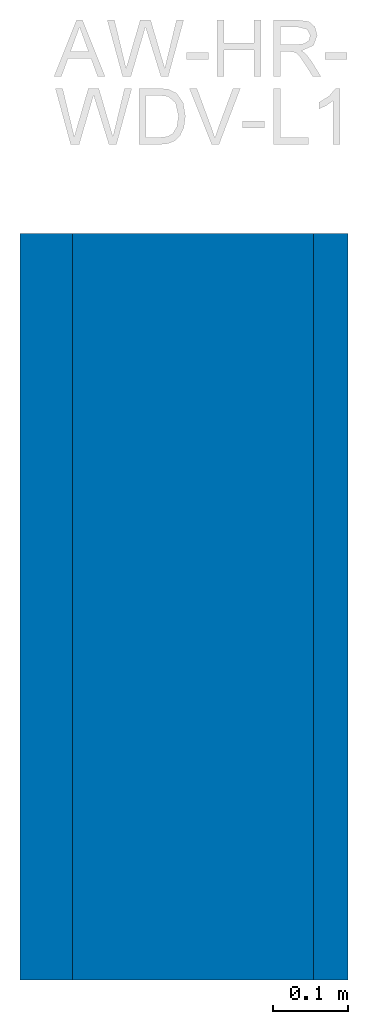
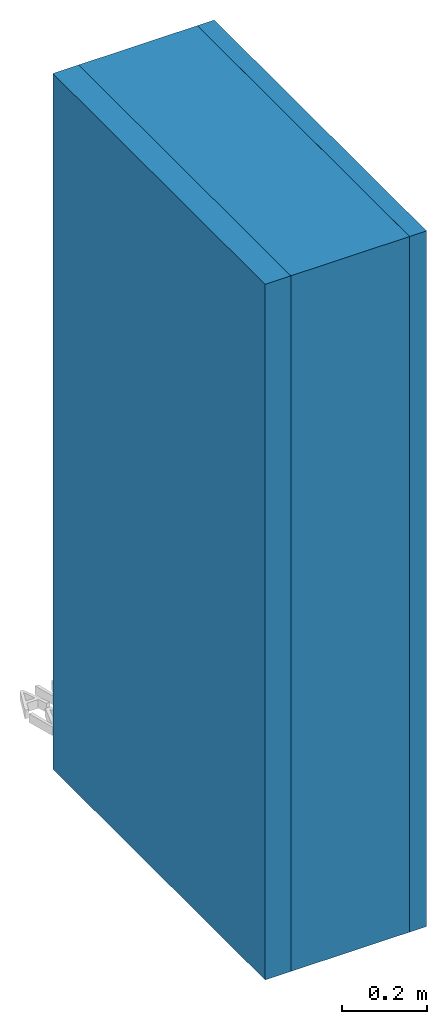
# Not in any storey, part 1 of 2: 3 walls, 1 element without a shape of its own.
"""IFC4 model written with IfcOpenShell, lengths in metres."""

from ifc_helpers import new_model, entity, si_unit, converted_unit, derived_unit, direction, frame, origin, place, context, subcontext, project, spatial, indexed_curve, outline, extrude, material, constituent, constituent_set, type_object, element, aggregate, save


model = new_model("IFC4")

# Units and contexts
model_context = context("Model", 3, precision=1e-05, world=origin(), true_north=direction((6.123031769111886e-17, 1.0)))
body_context = subcontext(model_context, "Body", "Model", "MODEL_VIEW")
ifc_project = project(units=[si_unit("LENGTHUNIT", "METRE"), si_unit("AREAUNIT", "SQUARE_METRE"), si_unit("VOLUMEUNIT", "CUBIC_METRE"), converted_unit("PLANEANGLEUNIT", "DEGREE", entity("IfcRatioMeasure", 0.017453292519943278), si_unit("PLANEANGLEUNIT", "RADIAN"), dimensions=[0, 0, 0, 0, 0, 0, 0]), si_unit("MASSUNIT", "GRAM", prefix="KILO"), derived_unit("MASSDENSITYUNIT", [(si_unit("MASSUNIT", "GRAM", prefix="KILO"), 1), (si_unit("LENGTHUNIT", "METRE"), -3)]), derived_unit("IONCONCENTRATIONUNIT", [(si_unit("MASSUNIT", "GRAM", prefix="KILO"), 1), (si_unit("LENGTHUNIT", "METRE"), -3)]), derived_unit("MOMENTOFINERTIAUNIT", [(si_unit("LENGTHUNIT", "METRE"), 4)]), si_unit("TIMEUNIT", "SECOND"), si_unit("FREQUENCYUNIT", "HERTZ"), si_unit("THERMODYNAMICTEMPERATUREUNIT", "DEGREE_CELSIUS"), derived_unit("THERMALTRANSMITTANCEUNIT", [(si_unit("MASSUNIT", "GRAM", prefix="KILO"), 1), (si_unit("THERMODYNAMICTEMPERATUREUNIT", "KELVIN"), -1), (si_unit("TIMEUNIT", "SECOND"), -3)]), derived_unit("THERMALCONDUCTANCEUNIT", [(si_unit("MASSUNIT", "GRAM", prefix="KILO"), 1), (si_unit("THERMODYNAMICTEMPERATUREUNIT", "KELVIN"), -1), (si_unit("TIMEUNIT", "SECOND"), -3), (si_unit("LENGTHUNIT", "METRE"), 1)]), derived_unit("VOLUMETRICFLOWRATEUNIT", [(si_unit("LENGTHUNIT", "METRE"), 3), (si_unit("TIMEUNIT", "SECOND"), -1)]), derived_unit("MASSFLOWRATEUNIT", [(si_unit("MASSUNIT", "GRAM", prefix="KILO"), 1), (si_unit("TIMEUNIT", "SECOND"), -1)]), derived_unit("ROTATIONALFREQUENCYUNIT", [(si_unit("TIMEUNIT", "SECOND"), -1)]), si_unit("ELECTRICCURRENTUNIT", "AMPERE"), si_unit("ELECTRICVOLTAGEUNIT", "VOLT"), si_unit("POWERUNIT", "WATT"), si_unit("FORCEUNIT", "NEWTON", prefix="KILO"), si_unit("ILLUMINANCEUNIT", "LUX"), si_unit("LUMINOUSFLUXUNIT", "LUMEN"), si_unit("LUMINOUSINTENSITYUNIT", "CANDELA"), derived_unit("USERDEFINED", [(si_unit("MASSUNIT", "GRAM", prefix="KILO"), -1), (si_unit("LENGTHUNIT", "METRE"), -2), (si_unit("TIMEUNIT", "SECOND"), 3), (si_unit("LUMINOUSFLUXUNIT", "LUMEN"), 1)]), derived_unit("USERDEFINED", [(si_unit("MASSUNIT", "GRAM", prefix="KILO"), 1), (si_unit("TIMEUNIT", "SECOND"), -3), (si_unit("LENGTHUNIT", "METRE"), 3), (si_unit("ELECTRICCURRENTUNIT", "AMPERE"), -2)]), derived_unit("SOUNDPOWERUNIT", [(si_unit("MASSUNIT", "GRAM", prefix="KILO"), 1), (si_unit("TIMEUNIT", "SECOND"), -3), (si_unit("LENGTHUNIT", "METRE"), 2)]), derived_unit("SOUNDPRESSUREUNIT", [(si_unit("MASSUNIT", "GRAM", prefix="KILO"), 1), (si_unit("LENGTHUNIT", "METRE"), -1), (si_unit("TIMEUNIT", "SECOND"), -2)]), derived_unit("LINEARVELOCITYUNIT", [(si_unit("LENGTHUNIT", "METRE"), 1), (si_unit("TIMEUNIT", "SECOND"), -1)]), si_unit("PRESSUREUNIT", "PASCAL"), derived_unit("USERDEFINED", [(si_unit("MASSUNIT", "GRAM", prefix="KILO"), 1), (si_unit("LENGTHUNIT", "METRE"), -2), (si_unit("TIMEUNIT", "SECOND"), -2)]), derived_unit("LINEARFORCEUNIT", [(si_unit("MASSUNIT", "GRAM", prefix="KILO"), 1), (si_unit("TIMEUNIT", "SECOND"), -2)]), derived_unit("PLANARFORCEUNIT", [(si_unit("MASSUNIT", "GRAM", prefix="KILO"), 1), (si_unit("LENGTHUNIT", "METRE"), -1), (si_unit("TIMEUNIT", "SECOND"), -2)]), derived_unit("SPECIFICHEATCAPACITYUNIT", [(si_unit("THERMODYNAMICTEMPERATUREUNIT", "KELVIN"), -1), (si_unit("LENGTHUNIT", "METRE"), 2), (si_unit("TIMEUNIT", "SECOND"), -2)]), derived_unit("HEATINGVALUEUNIT", [(si_unit("LENGTHUNIT", "METRE"), 2), (si_unit("TIMEUNIT", "SECOND"), -2)]), derived_unit("VAPORPERMEABILITYUNIT", [(si_unit("LENGTHUNIT", "METRE"), -1), (si_unit("TIMEUNIT", "SECOND"), 1)]), derived_unit("DYNAMICVISCOSITYUNIT", [(si_unit("MASSUNIT", "GRAM", prefix="KILO"), 1), (si_unit("TIMEUNIT", "SECOND"), -1), (si_unit("LENGTHUNIT", "METRE"), -1)]), derived_unit("THERMALEXPANSIONCOEFFICIENTUNIT", [(si_unit("THERMODYNAMICTEMPERATUREUNIT", "KELVIN"), -1)]), derived_unit("MODULUSOFELASTICITYUNIT", [(si_unit("MASSUNIT", "GRAM", prefix="KILO"), 1), (si_unit("LENGTHUNIT", "METRE"), -1), (si_unit("TIMEUNIT", "SECOND"), -2)]), derived_unit("ISOTHERMALMOISTURECAPACITYUNIT", [(si_unit("LENGTHUNIT", "METRE"), 3), (si_unit("MASSUNIT", "GRAM", prefix="KILO"), -1)]), derived_unit("MOISTUREDIFFUSIVITYUNIT", [(si_unit("TIMEUNIT", "SECOND"), -1), (si_unit("LENGTHUNIT", "METRE"), 2)])], contexts=[model_context])

# Site
site_placement = place(None, origin())
site = spatial("IfcSite", under=ifc_project, at=site_placement, Name="Default", CompositionType="ELEMENT")

# Assembly, walls
assembly_placement = place(site_placement, origin())
assembly = element("IfcElementAssembly", 1, at=assembly_placement, inside=site, Name="Wände Baugruppe:fbimSg_Wall_bc_WOD_vis_at_NTR_natuREbuilt_AW-HR-WDV-L1_43,9cm", ObjectType="Wände Baugruppe:fbimSg_Wall_bc_WOD_vis_at_NTR_natuREbuilt_AW-HR-WDV-L1_43,9cm", AssemblyPlace="NOTDEFINED", PredefinedType="USERDEFINED")
ifc_material_1 = material(Name="fbim_14153515_AT_001_Silikatputz_KP_1.5mm")
ifc_constituent_1 = constituent(ifc_material_1, Name="fbim_14153515_AT_001_Silikatputz_KP_1.5mm")
ifc_material_2 = material(Name="fbim_14100530_AT_Holzfaserdaemmung")
ifc_constituent_2 = constituent(ifc_material_2, Name="fbim_14100530_AT_Holzfaserdaemmung")
ifc_constituent_set_1 = constituent_set(constituents=[ifc_constituent_1, ifc_constituent_2], Name="Basiswand:fbimSg_Wall_dp_WOD_vis_at_NTR_natuREbuilt_AWRv-l_Lopas1_a_7cm")
wall_type_1 = type_object("IfcWallType", Name="Basiswand:fbimSg_Wall_dp_WOD_vis_at_NTR_natuREbuilt_AWRv-l_Lopas1_a_7cm", PredefinedType="STANDARD", material=ifc_constituent_set_1)
wall_1_placement = place(assembly_placement, frame((-1.5332699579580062, 47.65934739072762, 0.0), z_axis=(0.0, 0.0, 1.0), x_axis=(0.0, -1.0, 0.0)))
wall_1 = element("IfcWall", 2, at=wall_1_placement, type_object=wall_type_1, material=ifc_constituent_set_1, Name="Basiswand:fbimSg_Wall_dp_WOD_vis_at_NTR_natuREbuilt_AWRv-l_Lopas1_a_7cm", ObjectType="Basiswand:fbimSg_Wall_dp_WOD_vis_at_NTR_natuREbuilt_AWRv-l_Lopas1_a_7cm", PredefinedType="NOTDEFINED", context=body_context, shape_type="SweptSolid", body=[
    extrude(outline(indexed_curve([(-0.025000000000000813, -0.49999999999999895), (0.02499999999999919, -0.49999999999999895), (0.025000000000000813, 0.49999999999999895), (-0.02499999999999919, 0.49999999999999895), (-0.025000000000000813, -0.49999999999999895)], self_intersect=False)), frame((0.49999999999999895, 0.009999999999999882, 0.0), z_axis=(0.0, 0.0, 1.0), x_axis=(0.0, -1.0, 0.0)), (0.0, 0.0, 1.0), 1.9999999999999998),
    extrude(outline(indexed_curve([(-0.010000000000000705, -0.49999999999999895), (0.009999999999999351, -0.49999999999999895), (0.010000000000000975, 0.49999999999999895), (-0.00999999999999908, 0.49999999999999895), (-0.010000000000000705, -0.49999999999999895)], self_intersect=False)), frame((0.49999999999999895, -0.025000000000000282, 0.0), z_axis=(0.0, 0.0, 1.0), x_axis=(0.0, 1.0, 0.0)), (0.0, 0.0, 1.0), 1.9999999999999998),
])
ifc_material_3 = material(Name="fbim_14100500_at_NTR_Strohdaemmung")
ifc_constituent_3 = constituent(ifc_material_3, Name="fbim_14100500_at_NTR_Strohdaemmung")
ifc_material_4 = material(Name="fbim_12400515_AT_025_Vollholz_Bretter_Fichte")
ifc_constituent_4 = constituent(ifc_material_4, Name="fbim_12400515_AT_025_Vollholz_Bretter_Fichte")
ifc_constituent_set_2 = constituent_set(constituents=[ifc_constituent_3, ifc_constituent_4], Name="Basiswand:fbimSg_Wall_sb_WOD_vis_at_NTR_natuREbuilt_AWRv-l_Lopas1_k_32,3cm")
wall_type_2 = type_object("IfcWallType", Name="Basiswand:fbimSg_Wall_sb_WOD_vis_at_NTR_natuREbuilt_AWRv-l_Lopas1_k_32,3cm", PredefinedType="STANDARD", material=ifc_constituent_set_2)
wall_2_placement = place(assembly_placement, frame((-1.3367699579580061, 47.65934739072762, 0.0), z_axis=(0.0, 0.0, 1.0), x_axis=(0.0, -1.0, 0.0)))
wall_2 = element("IfcWall", 3, at=wall_2_placement, type_object=wall_type_2, material=ifc_constituent_set_2, Name="Basiswand:fbimSg_Wall_sb_WOD_vis_at_NTR_natuREbuilt_AWRv-l_Lopas1_k_32,3cm", ObjectType="Basiswand:fbimSg_Wall_sb_WOD_vis_at_NTR_natuREbuilt_AWRv-l_Lopas1_k_32,3cm", PredefinedType="NOTDEFINED", context=body_context, shape_type="SweptSolid", body=[
    extrude(outline(indexed_curve([(-0.011500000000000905, -0.49999999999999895), (0.01149999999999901, -0.49999999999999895), (0.011500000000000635, 0.49999999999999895), (-0.011499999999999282, 0.49999999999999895), (-0.011500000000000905, -0.49999999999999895)], self_intersect=False)), frame((0.49999999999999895, 0.15000000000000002, 0.0), z_axis=(0.0, 0.0, 1.0), x_axis=(0.0, -1.0, 0.0)), (0.0, 0.0, 1.0), 1.9999999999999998),
    extrude(outline(indexed_curve([(-0.1500000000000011, -0.49999999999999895), (0.1499999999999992, -0.49999999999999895), (0.15000000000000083, 0.49999999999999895), (-0.14999999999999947, 0.49999999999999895), (-0.1500000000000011, -0.49999999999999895)], self_intersect=False)), frame((0.49999999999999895, -0.011499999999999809, 0.0), z_axis=(0.0, 0.0, 1.0), x_axis=(0.0, 1.0, 0.0)), (0.0, 0.0, 1.0), 1.9999999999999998),
])
ifc_material_5 = material(Name="fbim_14100510_at_NTR_Hanffaserdaemmung")
ifc_constituent_5 = constituent(ifc_material_5, Name="fbim_14100510_at_NTR_Hanffaserdaemmung")
ifc_material_6 = material(Name="fbim_16200505_at_NTR_Lehm_Grundputz", Category="Verschiedene")
ifc_constituent_6 = constituent(ifc_material_6, Name="fbim_16200505_at_NTR_Lehm_Grundputz", Category="Verschiedene")
ifc_material_7 = material(Name="fbim_16200510_at_NTR_Lehm_Duennputz", Category="Verschiedene")
ifc_constituent_7 = constituent(ifc_material_7, Name="fbim_16200510_at_NTR_Lehm_Duennputz", Category="Verschiedene")
ifc_constituent_set_3 = constituent_set(constituents=[ifc_constituent_5, ifc_constituent_6, ifc_constituent_7], Name="Basiswand:fbimSg_Wall_dp_PLA_vis_at_NTR_natuREbuilt_AWRv-l_Lopas1_i_4,6cm")
wall_type_3 = type_object("IfcWallType", Name="Basiswand:fbimSg_Wall_dp_PLA_vis_at_NTR_natuREbuilt_AWRv-l_Lopas1_i_4,6cm", PredefinedType="STANDARD", material=ifc_constituent_set_3)
wall_3_placement = place(assembly_placement, frame((-1.152269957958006, 47.65934739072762, 0.0), z_axis=(0.0, 0.0, 1.0), x_axis=(0.0, -1.0, 0.0)))
wall_3 = element("IfcWall", 4, at=wall_3_placement, type_object=wall_type_3, material=ifc_constituent_set_3, Name="Basiswand:fbimSg_Wall_dp_PLA_vis_at_NTR_natuREbuilt_AWRv-l_Lopas1_i_4,6cm", ObjectType="Basiswand:fbimSg_Wall_dp_PLA_vis_at_NTR_natuREbuilt_AWRv-l_Lopas1_i_4,6cm", PredefinedType="NOTDEFINED", context=body_context, shape_type="SweptSolid", body=[
    extrude(outline(indexed_curve([(-0.0025000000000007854, -0.49999999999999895), (0.002499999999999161, -0.49999999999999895), (0.0025000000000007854, 0.49999999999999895), (-0.002499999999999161, 0.49999999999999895), (-0.0025000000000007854, -0.49999999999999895)], self_intersect=False)), frame((0.49999999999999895, 0.02050000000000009, 0.0), z_axis=(0.0, 0.0, 1.0), x_axis=(0.0, -1.0, 0.0)), (0.0, 0.0, 1.0), 1.9999999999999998),
    extrude(outline(indexed_curve([(-0.49999999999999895, -0.020000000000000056), (0.49999999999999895, -0.020000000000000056), (0.49999999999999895, 0.020000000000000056), (-0.49999999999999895, 0.020000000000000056), (-0.49999999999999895, -0.020000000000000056)], self_intersect=False)), frame((0.49999999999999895, -0.0019999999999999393, 0.0)), (0.0, 0.0, 1.0), 1.9999999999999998),
    extrude(outline(indexed_curve([(-0.0005000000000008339, -0.49999999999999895), (0.0004999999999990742, -0.49999999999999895), (0.0005000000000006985, 0.49999999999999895), (-0.0004999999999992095, 0.49999999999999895), (-0.0005000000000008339, -0.49999999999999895)], self_intersect=False)), frame((0.49999999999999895, -0.02249999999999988, 0.0), z_axis=(0.0, 0.0, 1.0), x_axis=(0.0, 1.0, 0.0)), (0.0, 0.0, 1.0), 1.9999999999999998),
])
aggregate(assembly, [wall_1, wall_2, wall_3])

save(model, "model.ifc")
